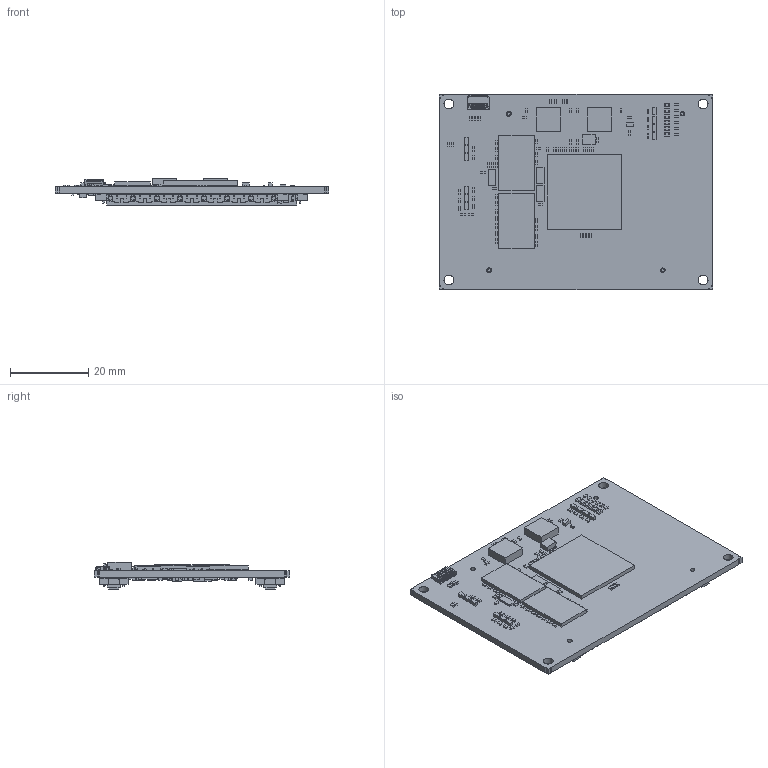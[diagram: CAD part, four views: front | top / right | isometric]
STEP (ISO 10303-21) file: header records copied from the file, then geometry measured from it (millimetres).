
FILE_DESCRIPTION(('Open CASCADE Model'),'2;1');
FILE_NAME('Open CASCADE Shape Model','2019-10-08T13:10:56',('Author'),( 'Open CASCADE'),'Open CASCADE STEP processor 6.8','Open CASCADE 6.8' ,'Unknown');
FILE_SCHEMA(('AUTOMOTIVE_DESIGN { 1 0 10303 214 1 1 1 1 }'));
Products named in the file (1): PCB
Bounding box: 70 x 50 x 7.09 mm (x, y, z)
Volume: 7744.3 mm3; surface area: 13445.5 mm2
Topology: 680 solids, 680 shells, 8445 faces, 20064 edges, 13408 vertices
Faces by surface type: plane 8230, cylinder 207, cone 8
Full cylindrical faces by diameter (mm): 1.15 x2, 1.25 x2, 2.5 x4
Entity records: 242278 total; most frequent: CARTESIAN_POINT 41928, ORIENTED_EDGE 40048, DIRECTION 37390, EDGE_CURVE 20024, LINE 19626, VECTOR 19626, VERTEX_POINT 13328, FACE_BOUND 8918
